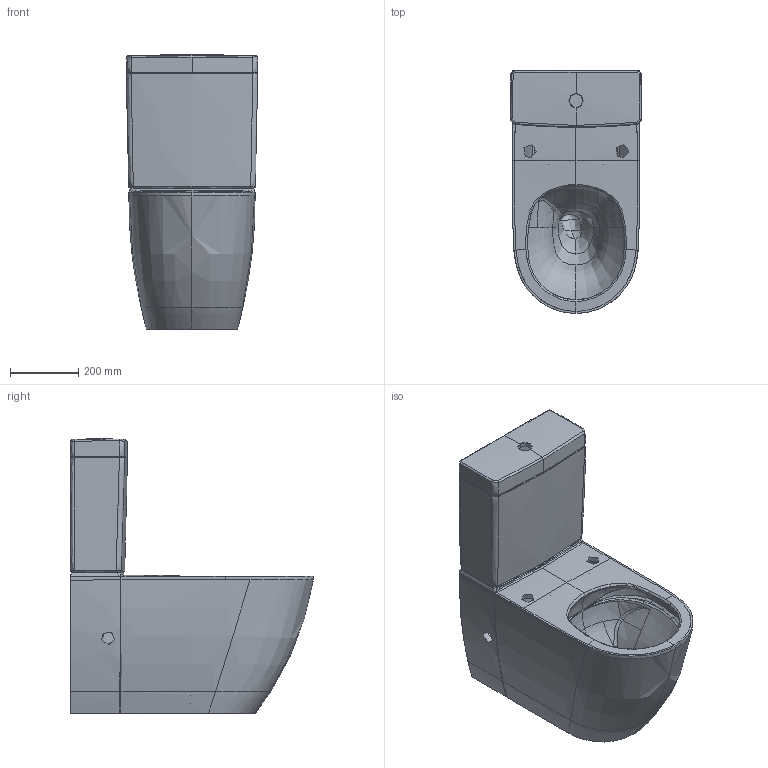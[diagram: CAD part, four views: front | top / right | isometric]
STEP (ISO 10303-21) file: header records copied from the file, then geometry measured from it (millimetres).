
FILE_DESCRIPTION(/* description */ (''),/* implementation_level */ '2;1');
FILE_NAME(/* name */ '4672T5.stp',/* time_stamp */ '2022-02-14T14:44:23+01:00',/* author */ (''),/* organization */ (''),/* preprocessor_version */ 'ST-DEVELOPER v18.1',/* originating_system */ 'SIEMENS PLM Software NX 1973',/* authorisation */ '');
FILE_SCHEMA (('AUTOMOTIVE_DESIGN { 1 0 10303 214 3 1 1 1 }'));
Products named in the file (1): koeb418CD693aoyb
Bounding box: 383.14 x 710.23 x 803.15 mm (x, y, z)
Volume: 9092498 mm3; surface area: 3078732.1 mm2
Topology: 3 solids, 6 shells, 1742 faces, 4472 edges, 2631 vertices
Faces by surface type: bspline 1458, plane 114, cylinder 72, extrusion 49, sphere 16, torus 15, cone 14, revolution 4
Full cylindrical faces by diameter (mm): 8 x1, 9 x2, 15 x4, 17 x2, 21 x2, 26 x2, 40 x3, 63 x1, 79.65 x1
Entity records: 230279 total; most frequent: CARTESIAN_POINT 201255, ORIENTED_EDGE 8628, EDGE_CURVE 4314, B_SPLINE_CURVE_WITH_KNOTS 3191, VERTEX_POINT 2610, DIRECTION 1927, EDGE_LOOP 1810, ADVANCED_FACE 1739
